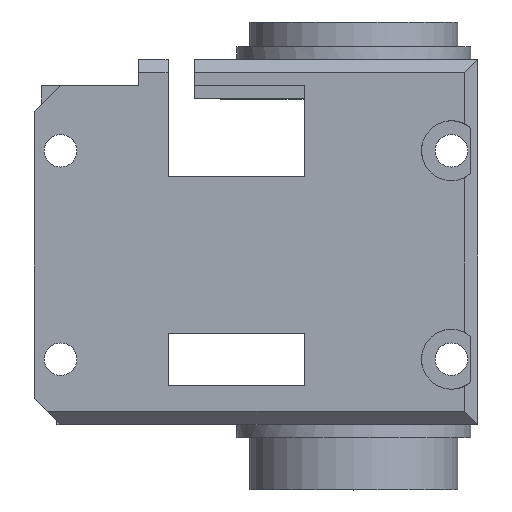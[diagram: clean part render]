
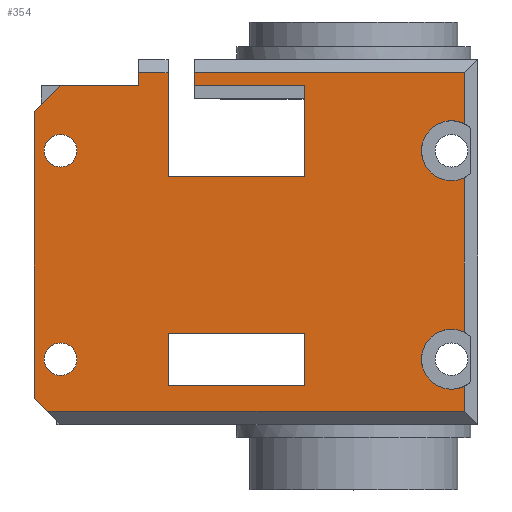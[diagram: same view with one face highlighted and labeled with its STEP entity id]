
A CAD part, top view. The second image highlights one B-rep face of the part: STEP entity #354.
In plain terms, the highlighted planar face has unit normal (0, 0, 1).
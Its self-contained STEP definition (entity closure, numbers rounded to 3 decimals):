
#32 = VERTEX_POINT('',#33);
#33 = CARTESIAN_POINT('',(-24.5,-11.,18.));
#39 = EDGE_CURVE('',#32,#40,#42,.T.);
#40 = VERTEX_POINT('',#41);
#41 = CARTESIAN_POINT('',(-23.5,-12.,18.));
#42 = LINE('',#43,#44);
#43 = CARTESIAN_POINT('',(-24.5,-11.,18.));
#44 = VECTOR('',#45,1.);
#45 = DIRECTION('',(0.707,-0.707,0.));
#336 = EDGE_CURVE('',#40,#337,#339,.T.);
#337 = VERTEX_POINT('',#338);
#338 = CARTESIAN_POINT('',(8.5,-12.,18.));
#339 = LINE('',#340,#341);
#340 = CARTESIAN_POINT('',(-25.5,-12.,18.));
#341 = VECTOR('',#342,1.);
#342 = DIRECTION('',(1.,0.,0.));
#354 = ADVANCED_FACE('',(#355,#495,#506,#540),#551,.T.);
#355 = FACE_BOUND('',#356,.T.);
#356 = EDGE_LOOP('',(#357,#367,#375,#383,#391,#397,#398,#399,#407,#416,
    #424,#433,#441,#449,#457,#465,#473,#481,#489));
#357 = ORIENTED_EDGE('',*,*,#358,.F.);
#358 = EDGE_CURVE('',#359,#361,#363,.T.);
#359 = VERTEX_POINT('',#360);
#360 = CARTESIAN_POINT('',(-16.518,14.,18.));
#361 = VERTEX_POINT('',#362);
#362 = CARTESIAN_POINT('',(-14.25,14.,18.));
#363 = LINE('',#364,#365);
#364 = CARTESIAN_POINT('',(-25.5,14.,18.));
#365 = VECTOR('',#366,1.);
#366 = DIRECTION('',(1.,0.,0.));
#367 = ORIENTED_EDGE('',*,*,#368,.T.);
#368 = EDGE_CURVE('',#359,#369,#371,.T.);
#369 = VERTEX_POINT('',#370);
#370 = CARTESIAN_POINT('',(-16.518,13.,18.));
#371 = LINE('',#372,#373);
#372 = CARTESIAN_POINT('',(-16.518,15.,18.));
#373 = VECTOR('',#374,1.);
#374 = DIRECTION('',(0.,-1.,0.));
#375 = ORIENTED_EDGE('',*,*,#376,.T.);
#376 = EDGE_CURVE('',#369,#377,#379,.T.);
#377 = VERTEX_POINT('',#378);
#378 = CARTESIAN_POINT('',(-22.5,13.,18.));
#379 = LINE('',#380,#381);
#380 = CARTESIAN_POINT('',(-16.518,13.,18.));
#381 = VECTOR('',#382,1.);
#382 = DIRECTION('',(-1.,0.,0.));
#383 = ORIENTED_EDGE('',*,*,#384,.T.);
#384 = EDGE_CURVE('',#377,#385,#387,.T.);
#385 = VERTEX_POINT('',#386);
#386 = CARTESIAN_POINT('',(-24.5,11.,18.));
#387 = LINE('',#388,#389);
#388 = CARTESIAN_POINT('',(-22.5,13.,18.));
#389 = VECTOR('',#390,1.);
#390 = DIRECTION('',(-0.707,-0.707,0.));
#391 = ORIENTED_EDGE('',*,*,#392,.T.);
#392 = EDGE_CURVE('',#385,#32,#393,.T.);
#393 = LINE('',#394,#395);
#394 = CARTESIAN_POINT('',(-24.5,11.,18.));
#395 = VECTOR('',#396,1.);
#396 = DIRECTION('',(0.,-1.,0.));
#397 = ORIENTED_EDGE('',*,*,#39,.T.);
#398 = ORIENTED_EDGE('',*,*,#336,.T.);
#399 = ORIENTED_EDGE('',*,*,#400,.T.);
#400 = EDGE_CURVE('',#337,#401,#403,.T.);
#401 = VERTEX_POINT('',#402);
#402 = CARTESIAN_POINT('',(8.5,-10.071,18.));
#403 = LINE('',#404,#405);
#404 = CARTESIAN_POINT('',(8.5,-19.,18.));
#405 = VECTOR('',#406,1.);
#406 = DIRECTION('',(0.,1.,0.));
#407 = ORIENTED_EDGE('',*,*,#408,.F.);
#408 = EDGE_CURVE('',#409,#401,#411,.T.);
#409 = VERTEX_POINT('',#410);
#410 = CARTESIAN_POINT('',(8.5,-5.929,18.));
#411 = CIRCLE('',#412,2.3);
#412 = AXIS2_PLACEMENT_3D('',#413,#414,#415);
#413 = CARTESIAN_POINT('',(7.5,-8.,18.));
#414 = DIRECTION('',(0.,0.,1.));
#415 = DIRECTION('',(1.,0.,-0.));
#416 = ORIENTED_EDGE('',*,*,#417,.T.);
#417 = EDGE_CURVE('',#409,#418,#420,.T.);
#418 = VERTEX_POINT('',#419);
#419 = CARTESIAN_POINT('',(8.5,5.929,18.));
#420 = LINE('',#421,#422);
#421 = CARTESIAN_POINT('',(8.5,-19.,18.));
#422 = VECTOR('',#423,1.);
#423 = DIRECTION('',(0.,1.,0.));
#424 = ORIENTED_EDGE('',*,*,#425,.F.);
#425 = EDGE_CURVE('',#426,#418,#428,.T.);
#426 = VERTEX_POINT('',#427);
#427 = CARTESIAN_POINT('',(8.5,10.071,18.));
#428 = CIRCLE('',#429,2.3);
#429 = AXIS2_PLACEMENT_3D('',#430,#431,#432);
#430 = CARTESIAN_POINT('',(7.5,8.,18.));
#431 = DIRECTION('',(0.,0.,1.));
#432 = DIRECTION('',(1.,0.,-0.));
#433 = ORIENTED_EDGE('',*,*,#434,.T.);
#434 = EDGE_CURVE('',#426,#435,#437,.T.);
#435 = VERTEX_POINT('',#436);
#436 = CARTESIAN_POINT('',(8.5,14.,18.));
#437 = LINE('',#438,#439);
#438 = CARTESIAN_POINT('',(8.5,-19.,18.));
#439 = VECTOR('',#440,1.);
#440 = DIRECTION('',(0.,1.,0.));
#441 = ORIENTED_EDGE('',*,*,#442,.F.);
#442 = EDGE_CURVE('',#443,#435,#445,.T.);
#443 = VERTEX_POINT('',#444);
#444 = CARTESIAN_POINT('',(-12.25,14.,18.));
#445 = LINE('',#446,#447);
#446 = CARTESIAN_POINT('',(-25.5,14.,18.));
#447 = VECTOR('',#448,1.);
#448 = DIRECTION('',(1.,0.,0.));
#449 = ORIENTED_EDGE('',*,*,#450,.F.);
#450 = EDGE_CURVE('',#451,#443,#453,.T.);
#451 = VERTEX_POINT('',#452);
#452 = CARTESIAN_POINT('',(-12.25,13.,18.));
#453 = LINE('',#454,#455);
#454 = CARTESIAN_POINT('',(-12.25,6.944,18.));
#455 = VECTOR('',#456,1.);
#456 = DIRECTION('',(-0.,1.,0.));
#457 = ORIENTED_EDGE('',*,*,#458,.F.);
#458 = EDGE_CURVE('',#459,#451,#461,.T.);
#459 = VERTEX_POINT('',#460);
#460 = CARTESIAN_POINT('',(-3.75,13.,18.));
#461 = LINE('',#462,#463);
#462 = CARTESIAN_POINT('',(-10.639,13.,18.));
#463 = VECTOR('',#464,1.);
#464 = DIRECTION('',(-1.,-0.,0.));
#465 = ORIENTED_EDGE('',*,*,#466,.F.);
#466 = EDGE_CURVE('',#467,#459,#469,.T.);
#467 = VERTEX_POINT('',#468);
#468 = CARTESIAN_POINT('',(-3.75,6.,18.));
#469 = LINE('',#470,#471);
#470 = CARTESIAN_POINT('',(-3.75,3.444,18.));
#471 = VECTOR('',#472,1.);
#472 = DIRECTION('',(-0.,1.,0.));
#473 = ORIENTED_EDGE('',*,*,#474,.T.);
#474 = EDGE_CURVE('',#467,#475,#477,.T.);
#475 = VERTEX_POINT('',#476);
#476 = CARTESIAN_POINT('',(-14.25,6.,18.));
#477 = LINE('',#478,#479);
#478 = CARTESIAN_POINT('',(-10.639,6.,18.));
#479 = VECTOR('',#480,1.);
#480 = DIRECTION('',(-1.,-0.,0.));
#481 = ORIENTED_EDGE('',*,*,#482,.T.);
#482 = EDGE_CURVE('',#475,#483,#485,.T.);
#483 = VERTEX_POINT('',#484);
#484 = CARTESIAN_POINT('',(-14.25,13.,18.));
#485 = LINE('',#486,#487);
#486 = CARTESIAN_POINT('',(-14.25,3.444,18.));
#487 = VECTOR('',#488,1.);
#488 = DIRECTION('',(-0.,1.,0.));
#489 = ORIENTED_EDGE('',*,*,#490,.T.);
#490 = EDGE_CURVE('',#483,#361,#491,.T.);
#491 = LINE('',#492,#493);
#492 = CARTESIAN_POINT('',(-14.25,6.944,18.));
#493 = VECTOR('',#494,1.);
#494 = DIRECTION('',(-0.,1.,0.));
#495 = FACE_BOUND('',#496,.T.);
#496 = EDGE_LOOP('',(#497));
#497 = ORIENTED_EDGE('',*,*,#498,.F.);
#498 = EDGE_CURVE('',#499,#499,#501,.T.);
#499 = VERTEX_POINT('',#500);
#500 = CARTESIAN_POINT('',(-21.25,-8.,18.));
#501 = CIRCLE('',#502,1.25);
#502 = AXIS2_PLACEMENT_3D('',#503,#504,#505);
#503 = CARTESIAN_POINT('',(-22.5,-8.,18.));
#504 = DIRECTION('',(0.,0.,1.));
#505 = DIRECTION('',(1.,0.,-0.));
#506 = FACE_BOUND('',#507,.T.);
#507 = EDGE_LOOP('',(#508,#518,#526,#534));
#508 = ORIENTED_EDGE('',*,*,#509,.T.);
#509 = EDGE_CURVE('',#510,#512,#514,.T.);
#510 = VERTEX_POINT('',#511);
#511 = CARTESIAN_POINT('',(-3.75,-10.,18.));
#512 = VERTEX_POINT('',#513);
#513 = CARTESIAN_POINT('',(-14.25,-10.,18.));
#514 = LINE('',#515,#516);
#515 = CARTESIAN_POINT('',(-10.639,-10.,18.));
#516 = VECTOR('',#517,1.);
#517 = DIRECTION('',(-1.,-0.,0.));
#518 = ORIENTED_EDGE('',*,*,#519,.T.);
#519 = EDGE_CURVE('',#512,#520,#522,.T.);
#520 = VERTEX_POINT('',#521);
#521 = CARTESIAN_POINT('',(-14.25,-6.,18.));
#522 = LINE('',#523,#524);
#523 = CARTESIAN_POINT('',(-14.25,-4.556,18.));
#524 = VECTOR('',#525,1.);
#525 = DIRECTION('',(-0.,1.,0.));
#526 = ORIENTED_EDGE('',*,*,#527,.F.);
#527 = EDGE_CURVE('',#528,#520,#530,.T.);
#528 = VERTEX_POINT('',#529);
#529 = CARTESIAN_POINT('',(-3.75,-6.,18.));
#530 = LINE('',#531,#532);
#531 = CARTESIAN_POINT('',(-10.639,-6.,18.));
#532 = VECTOR('',#533,1.);
#533 = DIRECTION('',(-1.,-0.,0.));
#534 = ORIENTED_EDGE('',*,*,#535,.F.);
#535 = EDGE_CURVE('',#510,#528,#536,.T.);
#536 = LINE('',#537,#538);
#537 = CARTESIAN_POINT('',(-3.75,-4.556,18.));
#538 = VECTOR('',#539,1.);
#539 = DIRECTION('',(-0.,1.,0.));
#540 = FACE_BOUND('',#541,.T.);
#541 = EDGE_LOOP('',(#542));
#542 = ORIENTED_EDGE('',*,*,#543,.F.);
#543 = EDGE_CURVE('',#544,#544,#546,.T.);
#544 = VERTEX_POINT('',#545);
#545 = CARTESIAN_POINT('',(-21.25,8.,18.));
#546 = CIRCLE('',#547,1.25);
#547 = AXIS2_PLACEMENT_3D('',#548,#549,#550);
#548 = CARTESIAN_POINT('',(-22.5,8.,18.));
#549 = DIRECTION('',(0.,0.,1.));
#550 = DIRECTION('',(1.,0.,-0.));
#551 = PLANE('',#552);
#552 = AXIS2_PLACEMENT_3D('',#553,#554,#555);
#553 = CARTESIAN_POINT('',(-7.028,0.888,18.));
#554 = DIRECTION('',(0.,0.,1.));
#555 = DIRECTION('',(1.,0.,-0.));
